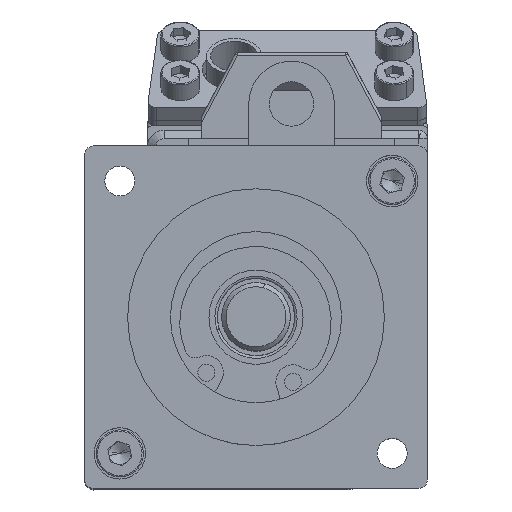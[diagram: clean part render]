
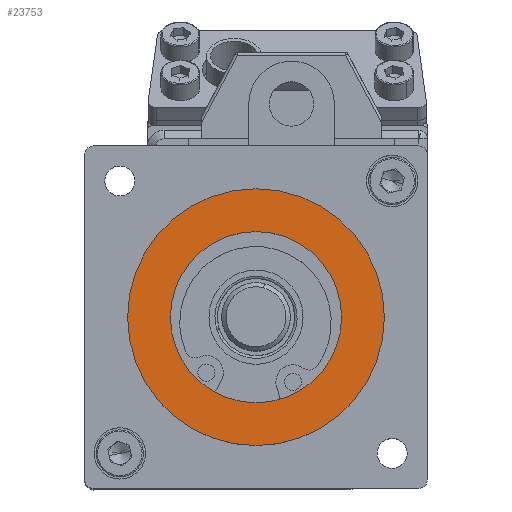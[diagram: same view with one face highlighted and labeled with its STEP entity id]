
A CAD part, top view. The second image highlights one B-rep face of the part: STEP entity #23753.
In plain terms, the highlighted planar face has unit normal (0, 0, 1).
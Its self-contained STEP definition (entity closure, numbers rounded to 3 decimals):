
#121 = AXIS2_PLACEMENT_3D ( 'NONE', #4865, #22397, #7367 ) ;
#312 = ORIENTED_EDGE ( 'NONE', *, *, #28148, .T. ) ;
#1056 = AXIS2_PLACEMENT_3D ( 'NONE', #24116, #9112, #26660 ) ;
#2239 = ORIENTED_EDGE ( 'NONE', *, *, #24314, .F. ) ;
#2249 = CIRCLE ( 'NONE', #13194, 10. ) ;
#3195 = PLANE ( 'NONE',  #22115 ) ;
#4865 = CARTESIAN_POINT ( 'NONE',  ( 68.478, 20., 115.595 ) ) ;
#6134 = VERTEX_POINT ( 'NONE', #6759 ) ;
#6759 = CARTESIAN_POINT ( 'NONE',  ( 53.478, 20., 115.595 ) ) ;
#7149 = CARTESIAN_POINT ( 'NONE',  ( 83.478, 20., 115.595 ) ) ;
#7296 = CARTESIAN_POINT ( 'NONE',  ( 68.478, 20., 115.595 ) ) ;
#7367 = DIRECTION ( 'NONE',  ( 1., 0., 0. ) ) ;
#7965 = VERTEX_POINT ( 'NONE', #29397 ) ;
#7976 = VERTEX_POINT ( 'NONE', #16778 ) ;
#8051 = VERTEX_POINT ( 'NONE', #7149 ) ;
#9112 = DIRECTION ( 'NONE',  ( 0., 0., 1. ) ) ;
#9638 = DIRECTION ( 'NONE',  ( 0., 0., 1. ) ) ;
#9849 = DIRECTION ( 'NONE',  ( 1., 0., 0. ) ) ;
#10397 = EDGE_CURVE ( 'NONE', #6134, #8051, #31276, .T. ) ;
#11011 = EDGE_CURVE ( 'NONE', #7976, #7965, #2249, .T. ) ;
#13194 = AXIS2_PLACEMENT_3D ( 'NONE', #24633, #9638, #27172 ) ;
#13249 = CARTESIAN_POINT ( 'NONE',  ( 68.478, 20., 115.595 ) ) ;
#15730 = DIRECTION ( 'NONE',  ( 1., 0., 0. ) ) ;
#16778 = CARTESIAN_POINT ( 'NONE',  ( 58.478, 20., 115.595 ) ) ;
#17411 = CIRCLE ( 'NONE', #121, 10. ) ;
#18285 = EDGE_LOOP ( 'NONE', ( #21449, #312 ) ) ;
#19832 = FACE_OUTER_BOUND ( 'NONE', #18285, .T. ) ;
#20956 = AXIS2_PLACEMENT_3D ( 'NONE', #7296, #24845, #9849 ) ;
#21449 = ORIENTED_EDGE ( 'NONE', *, *, #10397, .T. ) ;
#22115 = AXIS2_PLACEMENT_3D ( 'NONE', #13249, #30760, #15730 ) ;
#22397 = DIRECTION ( 'NONE',  ( 0., 0., 1. ) ) ;
#23753 = ADVANCED_FACE ( 'NONE', ( #26537, #19832 ), #3195, .T. ) ;
#24082 = CIRCLE ( 'NONE', #20956, 15. ) ;
#24116 = CARTESIAN_POINT ( 'NONE',  ( 68.478, 20., 115.595 ) ) ;
#24314 = EDGE_CURVE ( 'NONE', #7965, #7976, #17411, .T. ) ;
#24633 = CARTESIAN_POINT ( 'NONE',  ( 68.478, 20., 115.595 ) ) ;
#24845 = DIRECTION ( 'NONE',  ( 0., 0., 1. ) ) ;
#26537 = FACE_BOUND ( 'NONE', #30022, .T. ) ;
#26660 = DIRECTION ( 'NONE',  ( 1., 0., 0. ) ) ;
#27172 = DIRECTION ( 'NONE',  ( 1., 0., 0. ) ) ;
#28148 = EDGE_CURVE ( 'NONE', #8051, #6134, #24082, .T. ) ;
#29397 = CARTESIAN_POINT ( 'NONE',  ( 78.478, 20., 115.595 ) ) ;
#29803 = ORIENTED_EDGE ( 'NONE', *, *, #11011, .F. ) ;
#30022 = EDGE_LOOP ( 'NONE', ( #29803, #2239 ) ) ;
#30760 = DIRECTION ( 'NONE',  ( 0., 0., 1. ) ) ;
#31276 = CIRCLE ( 'NONE', #1056, 15. ) ;
